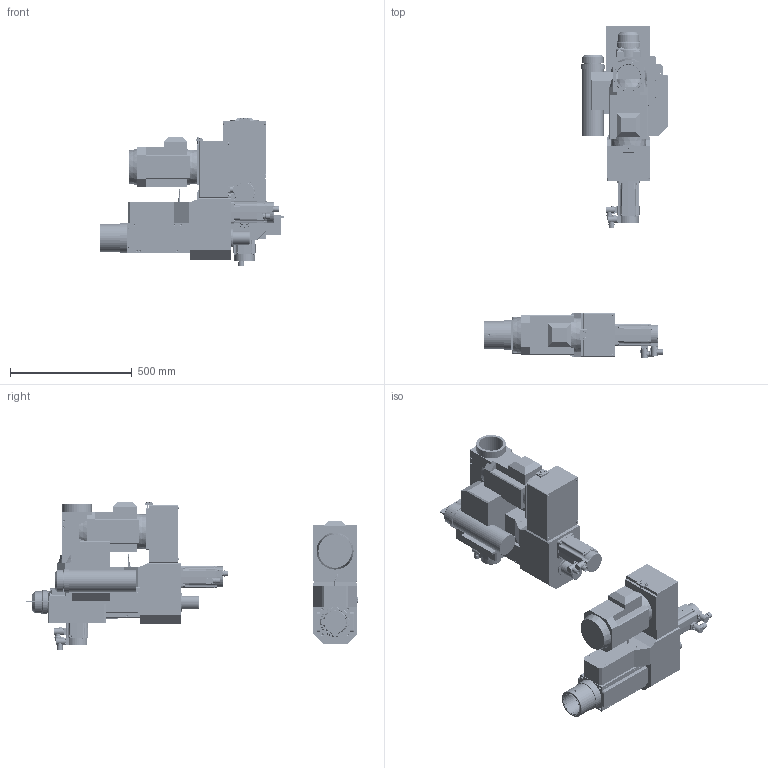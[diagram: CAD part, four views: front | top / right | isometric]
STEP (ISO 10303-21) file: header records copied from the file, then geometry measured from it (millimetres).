
FILE_DESCRIPTION( ( 'STEP AP203' ), '1' );
FILE_NAME( 'C:/Documents and Settings/Saverio/Desktop/disegni ironcad/unità serie 2/FMT 232 CN/FMT 232 CN_ABS32_A.stp', '2013-12-10T11:03:36', ( ' ' ), ( ' ' ), 'XStep 1.0', ' ', ' ' );
FILE_SCHEMA( ( 'CONFIG_CONTROL_DESIGN' ) );
Length unit declared in the file: metre
Products named in the file (40): Assem1; Assem2; Assem3; 1; 2; 3; 4; 5; 6; 7; 8; 9; 10; 11; 12; 13; 14; 15; 16; 17; 18; 19; 20; 21; 22; 23; 24; 25; 26; 27; 28; 29; 30; 31; 32; 33; 34; 35; 36; 37
Bounding box: 756.4 x 1362.82 x 609 mm (x, y, z)
Volume: 84416846.7 mm3; surface area: 5389932.9 mm2
Topology: 131 solids, 134 shells, 4647 faces, 11598 edges, 7568 vertices
Faces by surface type: plane 2267, cylinder 1615, cone 607, torus 86, bspline 72
Full cylindrical faces by diameter (mm): 1 x18, 2 x12, 3 x6, 4 x23, 4.2 x15, 4.5 x48, 4.918 x6, 5 x27, 5.5 x12, 6 x30, 6.5 x3, 7 x53, 7.4 x24, 8 x30, 8.5 x12, 9.87 x3, 10 x9, 13.5 x12, 16 x3, 18.3 x3, 19 x3, 19.2 x3, 20 x21, 21.7 x6, 22.7 x6, 25 x3, 26.7 x6, 35 x3, 42 x3, 42.5 x3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
Entity records: 45857 total; most frequent: CARTESIAN_POINT 11111, DIRECTION 6956, ORIENTED_EDGE 6266, EDGE_CURVE 3133, AXIS2_PLACEMENT_3D 2692, VERTEX_POINT 2250, EDGE_LOOP 1976, FACE_OUTER_BOUND 1636
